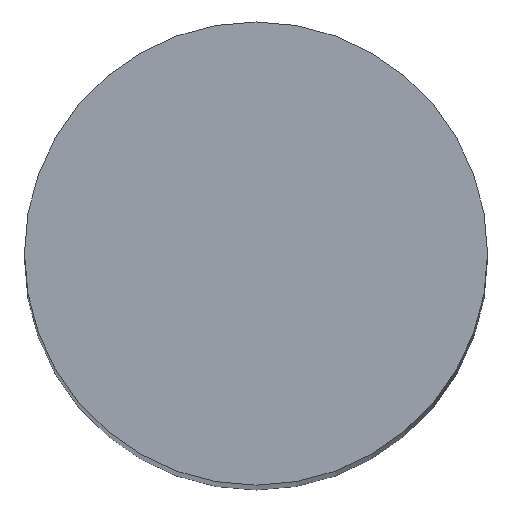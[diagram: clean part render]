
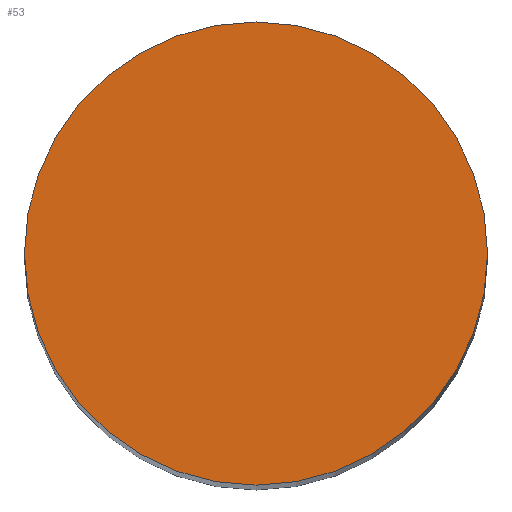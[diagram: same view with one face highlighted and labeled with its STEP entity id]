
A CAD part, top view. The second image highlights one B-rep face of the part: STEP entity #53.
In plain terms, the highlighted planar face has unit normal (0, 0, 1).
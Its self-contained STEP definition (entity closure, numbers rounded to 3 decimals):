
#53=ADVANCED_FACE('',(#100),#101,.T.);
#100=FACE_OUTER_BOUND('',#138,.T.);
#101=PLANE('',#139);
#138=EDGE_LOOP('',(#213,#214));
#139=AXIS2_PLACEMENT_3D('',#215,#216,#217);
#213=ORIENTED_EDGE('',*,*,#245,.T.);
#214=ORIENTED_EDGE('',*,*,#221,.T.);
#215=CARTESIAN_POINT('',(0.0,0.0,0.0));
#216=DIRECTION('',(0.0,0.0,1.0));
#217=DIRECTION('',(1.0,0.0,0.0));
#221=EDGE_CURVE('',#252,#249,#253,.T.);
#245=EDGE_CURVE('',#249,#252,#284,.T.);
#249=VERTEX_POINT('',#288);
#252=VERTEX_POINT('',#292);
#253=CIRCLE('',#293,3.0);
#284=CIRCLE('',#329,3.0);
#288=CARTESIAN_POINT('',(-3.0,0.0,0.0));
#292=CARTESIAN_POINT('',(3.0,0.,0.0));
#293=AXIS2_PLACEMENT_3D('',#333,#334,#335);
#329=AXIS2_PLACEMENT_3D('',#371,#372,#373);
#333=CARTESIAN_POINT('',(0.0,0.0,0.0));
#334=DIRECTION('',(0.0,0.0,1.0));
#335=DIRECTION('',(-1.0,0.0,0.0));
#371=CARTESIAN_POINT('',(0.0,0.0,0.0));
#372=DIRECTION('',(0.0,0.0,1.0));
#373=DIRECTION('',(-1.0,0.0,0.0));
